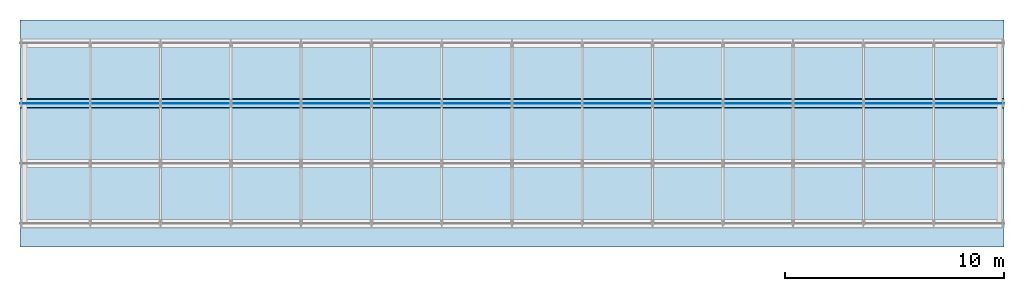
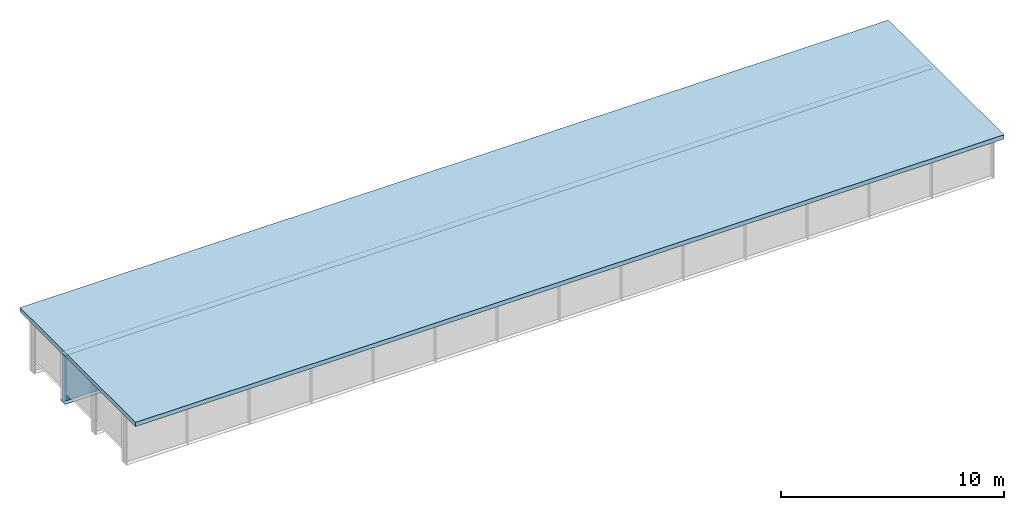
# One storey, part 9 of 13: 3 plates, 1 slab.
"""IFC4 building model written with IfcOpenShell, lengths in metres."""

from ifc_helpers import new_model, si_unit, frame, origin, origin_with_axes, origin_2d_with_axis, place, context, subcontext, project, spatial, polyline, rectangle, outline, extrude, element, save


model = new_model("IFC4")

# Units and contexts
model_context = context("Model", 3, precision=1e-05, world=origin())
body_context = subcontext(model_context, "Body", "Model", "MODEL_VIEW")
ifc_project = project(units=[si_unit("LENGTHUNIT", "METRE"), si_unit("AREAUNIT", "SQUARE_METRE"), si_unit("VOLUMEUNIT", "CUBIC_METRE"), si_unit("PLANEANGLEUNIT", "RADIAN")], contexts=[model_context])

# Site, building, storey
site_placement = place(None, origin_with_axes())
site = spatial("IfcSite", under=ifc_project, at=site_placement, Name="Default Site")
building_placement = place(site_placement, origin_with_axes())
building = spatial("IfcBuilding", under=site, at=building_placement, Name="Bridge Structure")
storey_placement = place(building_placement, origin_with_axes())
storey = spatial("IfcBuildingStorey", under=building, at=storey_placement, Name="Superstructure")

# Plates
plate_1_placement = place(storey_placement, frame((0.0, 1.375, 0.0), z_axis=(1.0, 0.0, 0.0), x_axis=(0.0, 1.0, 0.0)))
element("IfcPlate", 1, at=plate_1_placement, inside=storey, Name="Girder Web 3", context=body_context, shape_type="SweptSolid", body=[
    extrude(rectangle(XDim=0.022, YDim=2.61, at=origin_2d_with_axis()), origin_with_axes(), (0.0, 0.0, 1.0), 45.0),
])
plate_2_placement = place(storey_placement, frame((0.0, 1.375, 1.314), z_axis=(1.0, 0.0, 0.0), x_axis=(0.0, 1.0, 0.0)))
element("IfcPlate", 2, at=plate_2_placement, inside=storey, Name="Top Flange 3", context=body_context, shape_type="SweptSolid", body=[
    extrude(rectangle(XDim=0.375, YDim=0.018000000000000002, at=origin_2d_with_axis()), origin_with_axes(), (0.0, 0.0, 1.0), 45.0),
])
plate_3_placement = place(storey_placement, frame((0.0, 1.375, -1.316), z_axis=(1.0, 0.0, 0.0), x_axis=(0.0, 1.0, 0.0)))
element("IfcPlate", 3, at=plate_3_placement, inside=storey, Name="Bottom Flange 3", context=body_context, shape_type="SweptSolid", body=[
    extrude(rectangle(XDim=0.425, YDim=0.022, at=origin_2d_with_axis()), origin_with_axes(), (0.0, 0.0, 1.0), 45.0),
])

# Slab
slab_placement = place(storey_placement, frame((0.0, 0.0, 1.323), z_axis=(0.0, 0.0, 1.0), x_axis=(1.0, 0.0, 0.0)))
element("IfcSlab", 4, at=slab_placement, inside=storey, Name="Deck Slab", context=body_context, shape_type="SweptSolid", body=[
    extrude(outline(polyline([(0.0, -5.1875), (45.0, -5.1875), (45.0, 5.1875), (0.0, 5.1875), (0.0, -5.1875)])), origin_with_axes(), (0.0, 0.0, 1.0), 0.23),
])

save(model, "model.ifc")
